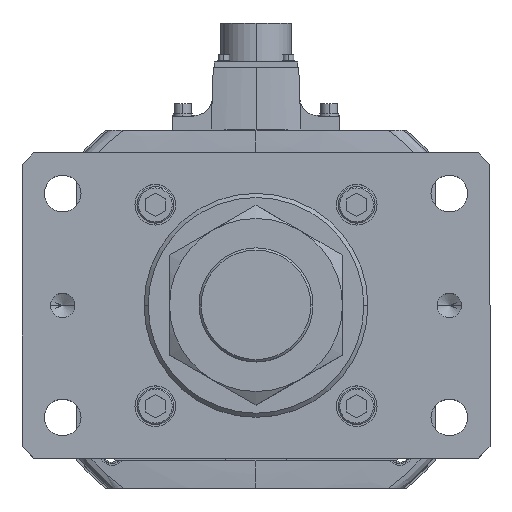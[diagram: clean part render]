
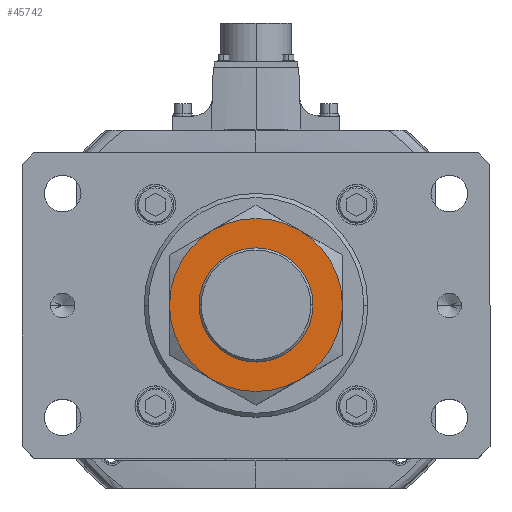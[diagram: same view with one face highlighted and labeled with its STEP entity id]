
A CAD part, top view. The second image highlights one B-rep face of the part: STEP entity #45742.
In plain terms, the highlighted planar face has unit normal (0, 0, 1).
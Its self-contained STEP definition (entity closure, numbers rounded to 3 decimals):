
#138 = VERTEX_POINT ( 'NONE', #3184 ) ;
#339 = DIRECTION ( 'NONE',  ( 1., 0., 0. ) ) ;
#385 = VERTEX_POINT ( 'NONE', #21817 ) ;
#1733 = CIRCLE ( 'NONE', #1846, 42.5 ) ;
#1846 = AXIS2_PLACEMENT_3D ( 'NONE', #18300, #26443, #39056 ) ;
#3011 = EDGE_CURVE ( 'NONE', #18678, #50396, #25719, .T. ) ;
#3029 = ORIENTED_EDGE ( 'NONE', *, *, #24153, .F. ) ;
#3184 = CARTESIAN_POINT ( 'NONE',  ( 28., 0., 34. ) ) ;
#3232 = ORIENTED_EDGE ( 'NONE', *, *, #52567, .F. ) ;
#3975 = EDGE_CURVE ( 'NONE', #21949, #138, #32262, .T. ) ;
#4433 = CIRCLE ( 'NONE', #37365, 42.5 ) ;
#4940 = AXIS2_PLACEMENT_3D ( 'NONE', #12737, #28517, #15888 ) ;
#5010 = CARTESIAN_POINT ( 'NONE',  ( 0., 0., 34. ) ) ;
#5313 = AXIS2_PLACEMENT_3D ( 'NONE', #32500, #45885, #19937 ) ;
#7561 = CIRCLE ( 'NONE', #4940, 42.5 ) ;
#8301 = CARTESIAN_POINT ( 'NONE',  ( 21.25, 36.806, 34. ) ) ;
#8946 = DIRECTION ( 'NONE',  ( 1., 0., 0. ) ) ;
#9073 = DIRECTION ( 'NONE',  ( 1., 0., 0. ) ) ;
#9487 = CARTESIAN_POINT ( 'NONE',  ( -21.25, 36.806, 34. ) ) ;
#11051 = ORIENTED_EDGE ( 'NONE', *, *, #26117, .F. ) ;
#11574 = DIRECTION ( 'NONE',  ( 0., 0., -1. ) ) ;
#12737 = CARTESIAN_POINT ( 'NONE',  ( 0., 0., 34. ) ) ;
#14885 = CARTESIAN_POINT ( 'NONE',  ( -42.5, 0., 34. ) ) ;
#15888 = DIRECTION ( 'NONE',  ( 1., 0., 0. ) ) ;
#16043 = ORIENTED_EDGE ( 'NONE', *, *, #48935, .F. ) ;
#16404 = CARTESIAN_POINT ( 'NONE',  ( 0., 0., 34. ) ) ;
#16657 = CIRCLE ( 'NONE', #25925, 42.5 ) ;
#18243 = ORIENTED_EDGE ( 'NONE', *, *, #3011, .F. ) ;
#18300 = CARTESIAN_POINT ( 'NONE',  ( 0., 0., 34. ) ) ;
#18678 = VERTEX_POINT ( 'NONE', #9487 ) ;
#19863 = FACE_BOUND ( 'NONE', #23262, .T. ) ;
#19937 = DIRECTION ( 'NONE',  ( 1., 0., 0. ) ) ;
#20248 = VERTEX_POINT ( 'NONE', #53276 ) ;
#21817 = CARTESIAN_POINT ( 'NONE',  ( 42.5, 0., 34. ) ) ;
#21949 = VERTEX_POINT ( 'NONE', #25449 ) ;
#23262 = EDGE_LOOP ( 'NONE', ( #38565, #16043 ) ) ;
#23697 = VERTEX_POINT ( 'NONE', #53431 ) ;
#23892 = AXIS2_PLACEMENT_3D ( 'NONE', #33833, #46670, #42068 ) ;
#24153 = EDGE_CURVE ( 'NONE', #385, #23697, #16657, .T. ) ;
#25123 = DIRECTION ( 'NONE',  ( 1., 0., 0. ) ) ;
#25312 = DIRECTION ( 'NONE',  ( 0., 0., 1. ) ) ;
#25449 = CARTESIAN_POINT ( 'NONE',  ( -28., 0., 34. ) ) ;
#25719 = CIRCLE ( 'NONE', #5313, 42.5 ) ;
#25925 = AXIS2_PLACEMENT_3D ( 'NONE', #39993, #27359, #49851 ) ;
#26117 = EDGE_CURVE ( 'NONE', #23697, #20248, #4433, .T. ) ;
#26443 = DIRECTION ( 'NONE',  ( 0., 0., -1. ) ) ;
#27359 = DIRECTION ( 'NONE',  ( 0., 0., -1. ) ) ;
#28517 = DIRECTION ( 'NONE',  ( 0., 0., -1. ) ) ;
#29697 = CARTESIAN_POINT ( 'NONE',  ( 0., 0., 34. ) ) ;
#29876 = AXIS2_PLACEMENT_3D ( 'NONE', #50570, #25312, #25123 ) ;
#30202 = AXIS2_PLACEMENT_3D ( 'NONE', #5010, #39026, #8946 ) ;
#32262 = CIRCLE ( 'NONE', #23892, 28. ) ;
#32500 = CARTESIAN_POINT ( 'NONE',  ( 0., 0., 34. ) ) ;
#32589 = VERTEX_POINT ( 'NONE', #14885 ) ;
#33506 = ORIENTED_EDGE ( 'NONE', *, *, #47227, .F. ) ;
#33833 = CARTESIAN_POINT ( 'NONE',  ( 0., 0., 34. ) ) ;
#34837 = CIRCLE ( 'NONE', #30202, 28. ) ;
#37365 = AXIS2_PLACEMENT_3D ( 'NONE', #29697, #42713, #9073 ) ;
#38069 = EDGE_LOOP ( 'NONE', ( #3029, #54022, #18243, #3232, #33506, #11051 ) ) ;
#38565 = ORIENTED_EDGE ( 'NONE', *, *, #3975, .F. ) ;
#39026 = DIRECTION ( 'NONE',  ( 0., 0., 1. ) ) ;
#39056 = DIRECTION ( 'NONE',  ( -1., 0., 0. ) ) ;
#39993 = CARTESIAN_POINT ( 'NONE',  ( 0., 0., 34. ) ) ;
#41097 = FACE_OUTER_BOUND ( 'NONE', #38069, .T. ) ;
#42068 = DIRECTION ( 'NONE',  ( 1., 0., 0. ) ) ;
#42713 = DIRECTION ( 'NONE',  ( 0., 0., -1. ) ) ;
#45742 = ADVANCED_FACE ( 'NONE', ( #41097, #19863 ), #54282, .T. ) ;
#45885 = DIRECTION ( 'NONE',  ( 0., 0., -1. ) ) ;
#46670 = DIRECTION ( 'NONE',  ( 0., 0., 1. ) ) ;
#47227 = EDGE_CURVE ( 'NONE', #20248, #32589, #50965, .T. ) ;
#48935 = EDGE_CURVE ( 'NONE', #138, #21949, #34837, .T. ) ;
#49378 = EDGE_CURVE ( 'NONE', #50396, #385, #7561, .T. ) ;
#49851 = DIRECTION ( 'NONE',  ( 1., 0., 0. ) ) ;
#50396 = VERTEX_POINT ( 'NONE', #8301 ) ;
#50570 = CARTESIAN_POINT ( 'NONE',  ( 0., 0., 34. ) ) ;
#50965 = CIRCLE ( 'NONE', #52929, 42.5 ) ;
#52567 = EDGE_CURVE ( 'NONE', #32589, #18678, #1733, .T. ) ;
#52929 = AXIS2_PLACEMENT_3D ( 'NONE', #16404, #11574, #339 ) ;
#53276 = CARTESIAN_POINT ( 'NONE',  ( -21.25, -36.806, 34. ) ) ;
#53431 = CARTESIAN_POINT ( 'NONE',  ( 21.25, -36.806, 34. ) ) ;
#54022 = ORIENTED_EDGE ( 'NONE', *, *, #49378, .F. ) ;
#54282 = PLANE ( 'NONE',  #29876 ) ;
